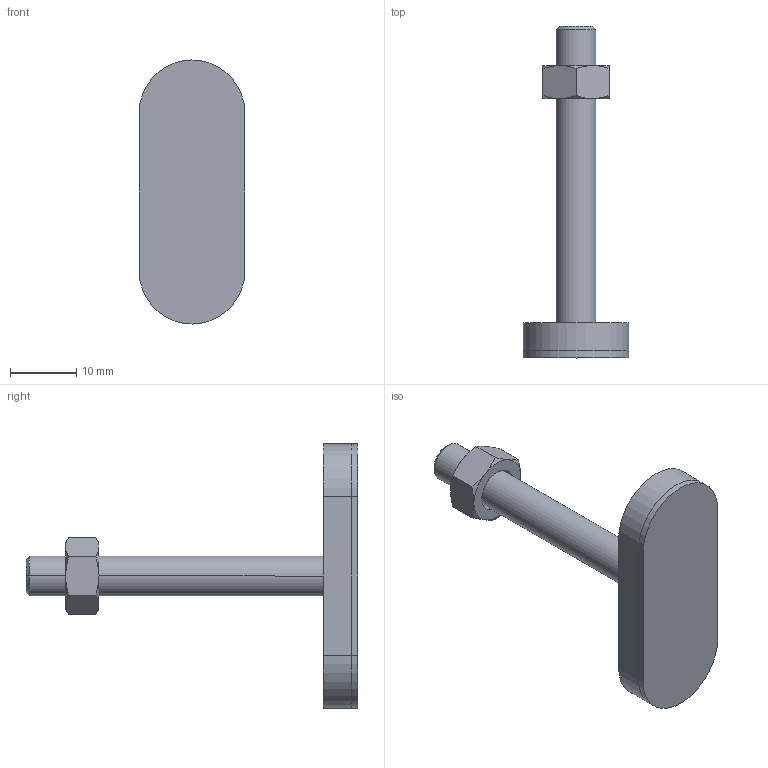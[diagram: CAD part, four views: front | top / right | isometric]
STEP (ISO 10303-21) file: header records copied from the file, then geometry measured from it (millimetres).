
FILE_DESCRIPTION (( 'STEP AP203' ), '1' );
FILE_NAME ('PF-M6 - 51x40.STEP', '2015-07-21T12:17:49', ( 'Ricardo' ), ( '' ), 'SwSTEP 2.0', 'SolidWorks 2014', '' );
FILE_SCHEMA (( 'CONFIG_CONTROL_DESIGN' ));
Length unit declared in the file: millimetre
Products named in the file (5): 12.50002; 11.50001; 20.20045; PF-M6 - 51x40; 20.20044
Assembly tree (4 placements, depth 2):
  PF-M6 - 51x40
    20.20044
    20.20045
    12.50002
    11.50001
Bounding box: 16 x 50.25 x 40 mm (x, y, z)
Volume: 4622.9 mm3; surface area: 4343.4 mm2
Topology: 4 solids, 4 shells, 63 faces, 144 edges, 90 vertices
Faces by surface type: plane 31, cone 18, cylinder 14
Entity records: 2363 total; most frequent: CARTESIAN_POINT 424, DIRECTION 306, ORIENTED_EDGE 288, EDGE_CURVE 144, AXIS2_PLACEMENT_3D 116, VERTEX_POINT 90, VECTOR 74, LINE 74
